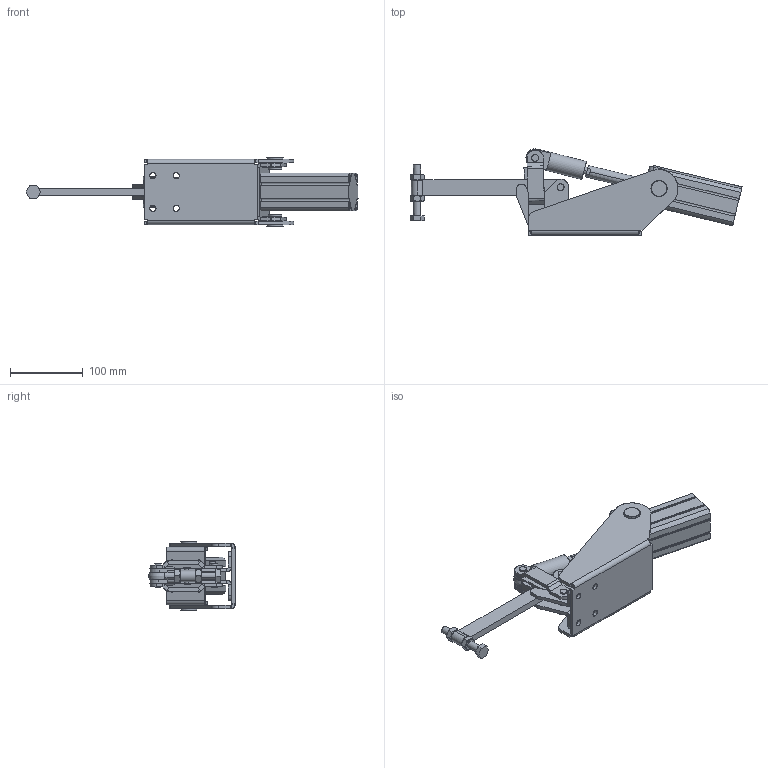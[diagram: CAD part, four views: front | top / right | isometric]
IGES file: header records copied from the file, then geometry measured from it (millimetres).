
Start section: SolidWorks IGES file using analytic representation for surfaces
Global section: file name: C:\Projetos\Grampos\KF-111 P\KF-111 DS P\KF-111 DS P.IGS; native system: SolidWorks 2013; preprocessor: SolidWorks 2013; author: Ricardo; date: 140828.143123; units: millimetre
Bounding box: 455.99 x 118.73 x 95.5 mm (x, y, z)
Surface area: 238551.8 mm2 (no closed solid volume)
Topology: 0 solids, 0 shells, 632 faces, 10028 edges, 10014 vertices
Faces by surface type: revolution 347, bspline 285
